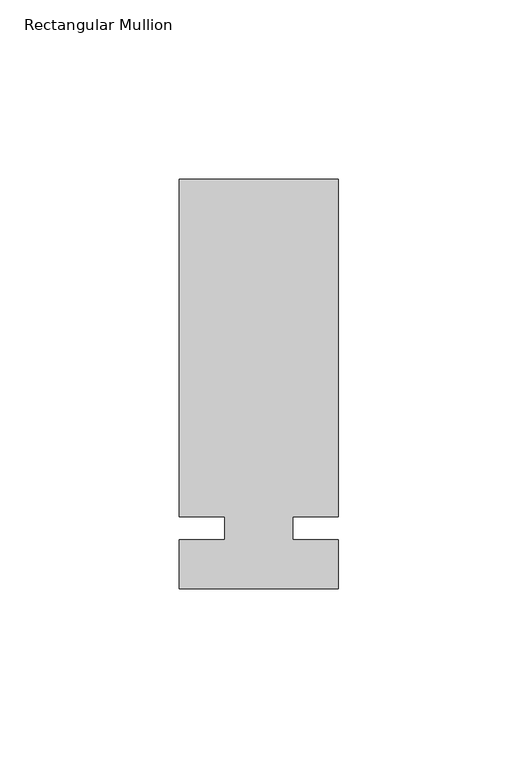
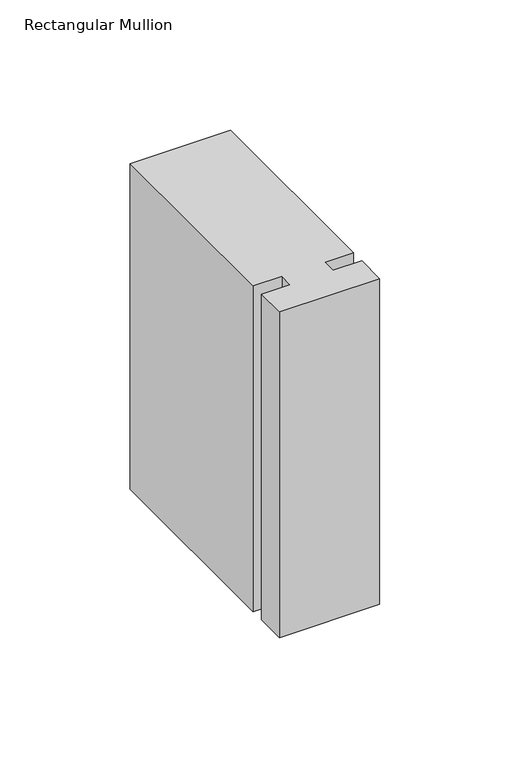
"""IFC4 building model written with IfcOpenShell, lengths in millimetres: member geometry, Rectangular Mullion : Kawneer-TRIFAB_VG_450_BACK_SB_Vertical."""

from ifc_helpers import new_model, si_unit, frame, origin, place, context, project, spatial, polyline, outline, extrude, source, transform, mapped, element, save


def rectangular_mullion_10d2db1b(model_context):
    return source(origin(), model_context, "Body", "SweptSolid", [
        extrude(outline(polyline([(22.225, -16.8532346), (-22.225, -16.8532346), (-22.225, -3.175), (-9.525, -3.175), (-9.525, 3.175), (-22.225, 3.175), (-22.225, 97.4467654), (22.225, 97.4467654), (22.225, 3.175), (9.5232296, 3.175), (9.5232296, -3.175), (22.225, -3.175), (22.225, -16.8532346)])), frame((0.0, 0.0, -152.4), z_axis=(0.0, 0.0, 1.0), x_axis=(1.0, 0.0, 0.0)), (0.0, 0.0, 1.0), 152.4),
    ])


if __name__ == "__main__":
    model = new_model("IFC4")
    model_context = context("Model", 3, world=origin())
    ifc_project = project(units=[si_unit("LENGTHUNIT", "METRE", prefix="MILLI")], contexts=[model_context])
    site = spatial("IfcSite", under=ifc_project)
    building = spatial("IfcBuilding", under=site)
    placement = place(None, origin())
    rectangular_mullion_shape = rectangular_mullion_10d2db1b(model_context)
    element("IfcMember", 1, ObjectType="Rectangular Mullion : Kawneer-TRIFAB_VG_450_BACK_SB_Vertical", at=placement, inside=building, context=model_context, shape_type="MappedRepresentation", body=[
        mapped(rectangular_mullion_shape, transform((0.0, 0.0, 0.0), x_axis=(1.0, 0.0, 0.0), y_axis=(0.0, 1.0, 0.0), z_axis=(0.0, 0.0, 1.0))),
    ])
    save(model, "model.ifc")
